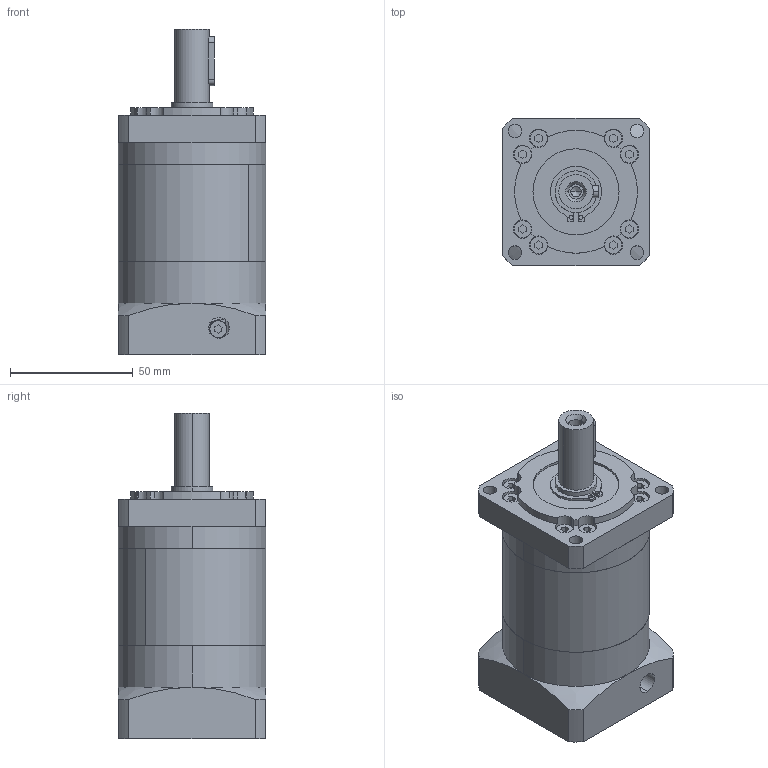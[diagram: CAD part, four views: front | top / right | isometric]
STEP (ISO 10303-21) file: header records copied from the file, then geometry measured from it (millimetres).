
FILE_DESCRIPTION (( 'STEP AP214' ), '1' );
FILE_NAME ('PRF60-L2 目录1.STEP', '2020-09-03T03:34:37', ( '微软用户' ), ( '微软中国' ), 'SwSTEP 2.0', 'SolidWorks 2014', '' );
FILE_SCHEMA (( 'AUTOMOTIVE_DESIGN' ));
Length unit declared in the file: millimetre
Products named in the file (15): 囀鞠褒蹟佪-M4℅12; 粣創-6004 20x42x12; 邧埴瑩 5x5x20; PLF60-窣諉啣-梓袧_D8-50 D9-70 D10-M10 L4-22 L6-32(22+10) L7-4 A2-60 R-39.5 梓袧; PLF60 狟屳唳_D6-60 D7-14 梓袧; PLF60 奻屳唳_D1-70 D2-5.5 D3-14 D4-17 D5-50 L1-30 L2-35 L3-3 A1-60 S1-3 S2-20 S3-5 S4-18 B-5 H-16 C-M5; PLF60 內齿圈_二级内齿圈; PRF60-L2 Ŀ¼1
Assembly tree (7 placements, depth 2):
  粣創-6004 20x42x12
  邧埴瑩 5x5x20
  PLF60-窣諉啣-梓袧_D8-50 D9-70 D10-M10 L4-22 L6-32(22+10) L7-4 A2-60 R-39.5 梓袧
  PLF60 狟屳唳_D6-60 D7-14 梓袧
  PLF60 奻屳唳_D1-70 D2-5.5 D3-14 D4-17 D5-50 L1-30 L2-35 L3-3 A1-60 S1-3 S2-20 S3-5 S4-18 B-5 H-16 C-M5
Bounding box: 60 x 60 x 132.5 mm (x, y, z)
Volume: 272739.6 mm3; surface area: 71412 mm2
Topology: 7 solids, 7 shells, 501 faces, 1347 edges, 879 vertices
Faces by surface type: cylinder 186, plane 182, bspline 118, cone 15
Entity records: 25632 total; most frequent: CARTESIAN_POINT 7683, ORIENTED_EDGE 2674, DIRECTION 2360, EDGE_CURVE 1337, AXIS2_PLACEMENT_3D 948, VERTEX_POINT 879, EDGE_LOOP 594, CIRCLE 554
